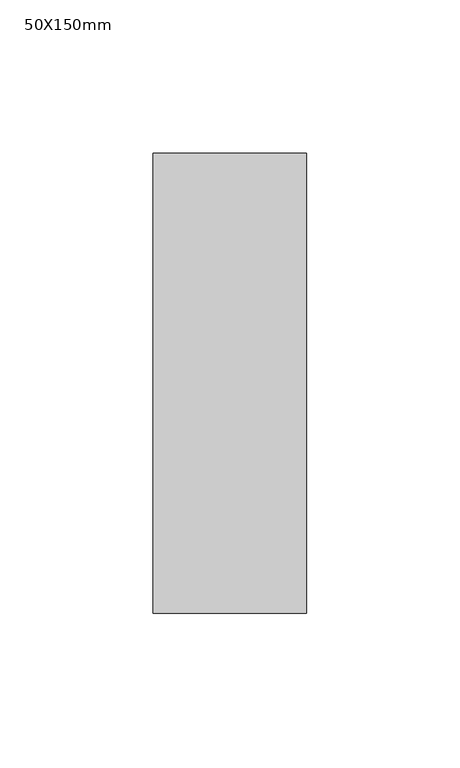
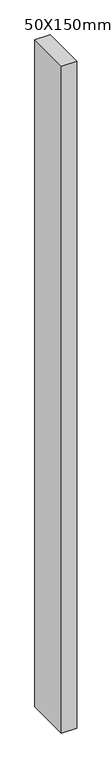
"""IFC4 building model written with IfcOpenShell, lengths in millimetres: member geometry, 矩形竖梃 : 50X150mm."""

import ifcopenshell
import ifcopenshell.guid

model = None  # the IFC model being written
_history = None  # IfcOwnerHistory: only IFC2X3 demands one
_inside = {}  # id of a spatial element -> (the spatial element, [elements in it])
_under = {}  # id of a project, library or spatial element -> (it, [spatial elements below it])
_declared = {}  # id of a project -> (the project, [libraries it declares])
_typed = {}  # id of a type object -> (the type object, [elements of that type])
_made_of = {}  # id of a material, layer set ... -> (it, [elements and type objects made of it])


def new_model(schema):
    """Start an empty IFC model of exactly this schema.

    Asked for "IFC4X3", IfcOpenShell would pick the latest addendum, in which some entities
    have other attributes; the version numbers below select the first issue.
    IFC2X3 requires an IfcOwnerHistory on every rooted entity: one is made here for all.
    """
    global model, _history
    if schema == "IFC4X3":
        model = ifcopenshell.file(schema_version=(4, 3, 0, 0))
    else:
        model = ifcopenshell.file(schema=schema)
    _inside.clear()
    _under.clear()
    _declared.clear()
    _typed.clear()
    _made_of.clear()
    _history = None
    if model.schema == "IFC2X3":
        org = make("IfcOrganization", Name="unknown")
        user = make(
            "IfcPersonAndOrganization",
            ThePerson=make("IfcPerson", FamilyName="unknown"),
            TheOrganization=org,
        )
        app = make(
            "IfcApplication",
            ApplicationDeveloper=org,
            Version="unknown",
            ApplicationFullName="unknown",
            ApplicationIdentifier="unknown",
        )
        _history = make(
            "IfcOwnerHistory",
            OwningUser=user,
            OwningApplication=app,
            ChangeAction="ADDED",
            CreationDate=0,
        )
    return model


def make(cls, **values):
    """One entity of the class cls with the attributes given. An attribute that is None is left unset."""
    return model.create_entity(
        cls, **{name: value for name, value in values.items() if value is not None}
    )


def rooted(cls, **values):
    """An entity with a GlobalId (a new one), such as an element, a storey or a relation."""
    return make(cls, GlobalId=ifcopenshell.guid.new(), OwnerHistory=_history, **values)


def si_unit(unit_type, name, prefix=None):
    """IfcSIUnit, for example si_unit("LENGTHUNIT", "METRE", prefix="MILLI")."""
    return make("IfcSIUnit", UnitType=unit_type, Prefix=prefix, Name=name)


def assignment(units):
    """IfcUnitAssignment: the units of a project."""
    return None if units is None else make("IfcUnitAssignment", Units=units)


def point(xyz):
    """IfcCartesianPoint."""
    return None if xyz is None else make("IfcCartesianPoint", Coordinates=xyz)


def direction(xyz):
    """IfcDirection."""
    return None if xyz is None else make("IfcDirection", DirectionRatios=xyz)


def frame(location, z_axis=None, x_axis=None):
    """IfcAxis2Placement3D, a coordinate frame: its origin and axes. An axis left out is left unset."""
    return make(
        "IfcAxis2Placement3D",
        Location=point(location),
        Axis=direction(z_axis),
        RefDirection=direction(x_axis),
    )


def origin():
    """The frame at (0, 0, 0) with its axes left unset."""
    return frame((0.0, 0.0, 0.0))


def place(relative_to, where):
    """IfcLocalPlacement: puts the frame where relative to a parent placement (None: the world)."""
    return make(
        "IfcLocalPlacement", PlacementRelTo=relative_to, RelativePlacement=where
    )


def context(
    kind, dimensions, precision=None, world=None, true_north=None, identifier=None
):
    """IfcGeometricRepresentationContext, for example the 3D "Model" context."""
    return make(
        "IfcGeometricRepresentationContext",
        ContextIdentifier=identifier,
        ContextType=kind,
        CoordinateSpaceDimension=dimensions,
        Precision=precision,
        WorldCoordinateSystem=world,
        TrueNorth=true_north,
    )


def project(units=None, contexts=None):
    """IfcProject with its units and contexts."""
    return rooted(
        "IfcProject",
        Name="project",
        RepresentationContexts=contexts,
        UnitsInContext=assignment(units),
    )


def spatial(cls, under=None, at=None, **own):
    """A site, building, storey or space (cls), placed at a placement, below another one or the project."""
    s = rooted(cls, ObjectPlacement=at, **own)
    if under is not None:
        _under.setdefault(under.id(), (under, []))[1].append(s)
    return s


def polyline(points):
    """IfcPolyline through the points."""
    return make("IfcPolyline", Points=[point(p) for p in points])


def outline(outer, holes=None, kind="AREA"):
    """IfcArbitraryClosedProfileDef: a profile drawn as a closed curve; with holes, ...WithVoids."""
    if holes is None:
        return make("IfcArbitraryClosedProfileDef", ProfileType=kind, OuterCurve=outer)
    return make(
        "IfcArbitraryProfileDefWithVoids",
        ProfileType=kind,
        OuterCurve=outer,
        InnerCurves=holes,
    )


def extrude(swept, where, along, depth):
    """IfcExtrudedAreaSolid: the profile swept, set in the frame where, extruded along a direction by depth."""
    return make(
        "IfcExtrudedAreaSolid",
        SweptArea=swept,
        Position=where,
        ExtrudedDirection=direction(along),
        Depth=depth,
    )


def shape(context_of_items, identifier, shape_type, items):
    """IfcShapeRepresentation: the items that make up one representation, for example the "Body"."""
    return make(
        "IfcShapeRepresentation",
        ContextOfItems=context_of_items,
        RepresentationIdentifier=identifier,
        RepresentationType=shape_type,
        Items=items,
    )


def source(mapping_origin, context_of_items, identifier, shape_type, items):
    """IfcRepresentationMap: a shape defined once, which mapped items show again and again."""
    return make(
        "IfcRepresentationMap",
        MappingOrigin=mapping_origin,
        MappedRepresentation=shape(context_of_items, identifier, shape_type, items),
    )


def transform(
    local_origin,
    x_axis=None,
    y_axis=None,
    z_axis=None,
    scale=None,
    scale2=None,
    scale3=None,
    uniform=True,
):
    """IfcCartesianTransformationOperator3D, or its non-uniform kind. x_axis, y_axis, z_axis: its Axis1, 2, 3."""
    if uniform:
        return make(
            "IfcCartesianTransformationOperator3D",
            Axis1=direction(x_axis),
            Axis2=direction(y_axis),
            LocalOrigin=point(local_origin),
            Scale=scale,
            Axis3=direction(z_axis),
        )
    return make(
        "IfcCartesianTransformationOperator3DnonUniform",
        Axis1=direction(x_axis),
        Axis2=direction(y_axis),
        LocalOrigin=point(local_origin),
        Scale=scale,
        Axis3=direction(z_axis),
        Scale2=scale2,
        Scale3=scale3,
    )


def mapped(mapping_source, mapping_target):
    """IfcMappedItem: shows the shape of a source again, moved by a transform."""
    return make(
        "IfcMappedItem", MappingSource=mapping_source, MappingTarget=mapping_target
    )


def made_of(thing, what):
    """Note that an element or type object is made of a material, layer set ...; save() writes the relation."""
    if what is not None:
        _made_of.setdefault(what.id(), (what, []))[1].append(thing)
    return thing


def element(
    cls,
    number,
    at=None,
    inside=None,
    cuts=None,
    type_object=None,
    material=None,
    context=None,
    identifier="Body",
    shape_type=None,
    held_by="IfcProductDefinitionShape",
    body=None,
    shapes=None,
    **own,
):
    """One element of the class cls, such as IfcWall. Its Tag is "e" and its number.

    at: its placement. inside: the storey or other place that contains it. cuts: it is an
    opening in that element (IfcRelVoidsElement). A single representation is given by context,
    identifier, shape_type and body (its items); several are given by shapes. held_by: the class
    of the entity that holds the representations. save() writes the other relations.
    """
    e = rooted(cls, Tag="e%d" % number, ObjectPlacement=at, **own)
    if body is not None:
        shapes = [shape(context, identifier, shape_type, body)]
    if shapes is not None:
        e.Representation = make(held_by, Representations=shapes)
    if inside is not None:
        _inside.setdefault(inside.id(), (inside, []))[1].append(e)
    if cuts is not None:
        rooted(
            "IfcRelVoidsElement", RelatingBuildingElement=cuts, RelatedOpeningElement=e
        )
    if type_object is not None:
        _typed.setdefault(type_object.id(), (type_object, []))[1].append(e)
    return made_of(e, material)


def aggregate(whole, parts):
    """IfcRelAggregates: a whole, such as a stair, and the parts it consists of."""
    return rooted("IfcRelAggregates", RelatingObject=whole, RelatedObjects=parts)


def save(model, path):
    """Write the relations noted so far, then the file.

    IfcRelAggregates (storeys below a building ...), IfcRelContainedInSpatialStructure (elements
    in a storey), IfcRelDefinesByType, IfcRelAssociatesMaterial and IfcRelDeclares: one each for
    every whole, place, type object, material and project.
    """
    for whole, parts in _under.values():
        aggregate(whole, parts)
    for where, things in _inside.values():
        rooted(
            "IfcRelContainedInSpatialStructure",
            RelatedElements=things,
            RelatingStructure=where,
        )
    for kind, things in _typed.values():
        rooted("IfcRelDefinesByType", RelatedObjects=things, RelatingType=kind)
    for what, things in _made_of.values():
        rooted("IfcRelAssociatesMaterial", RelatedObjects=things, RelatingMaterial=what)
    for by, libraries in _declared.values():
        rooted("IfcRelDeclares", RelatingContext=by, RelatedDefinitions=libraries)
    model.write(path)


def member_50x150mm_26769b4d(model_context):
    return source(origin(), model_context, "Body", "SweptSolid", [
        extrude(outline(polyline([(25.0, 75.0), (25.0, -75.0), (-25.0, -75.0), (-25.0, 75.0), (25.0, 75.0)])), frame((0.0, 0.0, -2310.0), z_axis=(0.0, 0.0, 1.0), x_axis=(1.0, 0.0, 0.0)), (0.0, 0.0, 1.0), 2310.0),
    ])


if __name__ == "__main__":
    model = new_model("IFC4")
    model_context = context("Model", 3, world=origin())
    ifc_project = project(units=[si_unit("LENGTHUNIT", "METRE", prefix="MILLI")], contexts=[model_context])
    site = spatial("IfcSite", under=ifc_project)
    building = spatial("IfcBuilding", under=site)
    placement = place(None, origin())
    member_50x150mm_shape = member_50x150mm_26769b4d(model_context)
    element("IfcMember", 1, ObjectType="矩形竖梃 : 50X150mm", at=placement, inside=building, context=model_context, shape_type="MappedRepresentation", body=[
        mapped(member_50x150mm_shape, transform((0.0, 0.0, 0.0), x_axis=(1.0, 0.0, 0.0), y_axis=(0.0, 1.0, 0.0), z_axis=(0.0, 0.0, 1.0))),
    ])
    save(model, "model.ifc")
